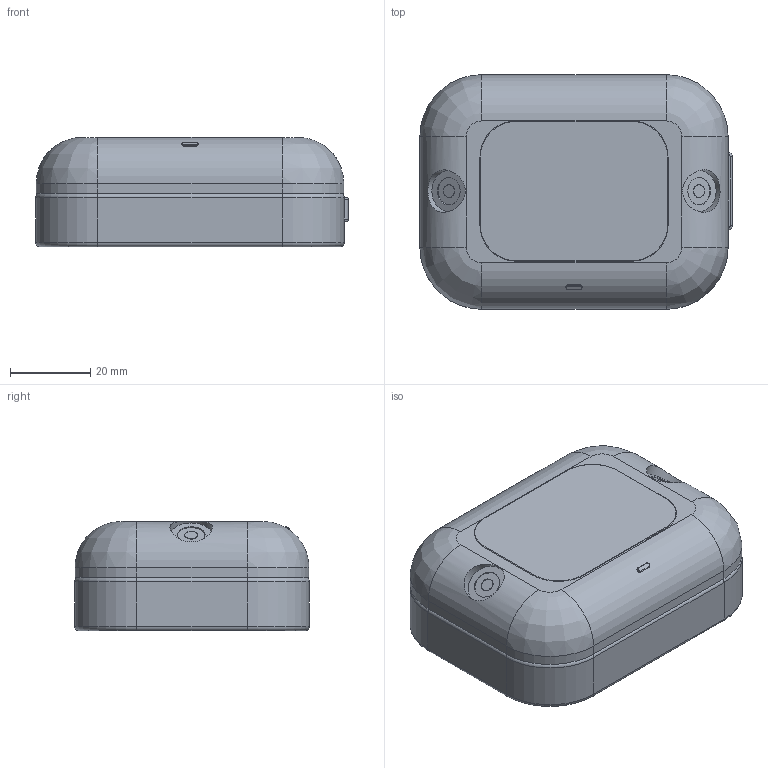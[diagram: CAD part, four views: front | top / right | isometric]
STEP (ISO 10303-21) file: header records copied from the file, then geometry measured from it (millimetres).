
FILE_DESCRIPTION(('Open CASCADE Model'),'2;1');
FILE_NAME('vive-ultimate-tracker-exterior.step','2026-11-14T14:32:00',( 'Author'),('Open CASCADE'),'Open CASCADE STEP processor 8.0', 'Open CASCADE 8.0','Unknown');
FILE_SCHEMA(('AP242_MANAGED_MODEL_BASED_3D_ENGINEERING_MIM_LF {1 0 10303 442 1 1 4 }' ));
Length unit declared in the file: millimetre
Products named in the file (1): VIVE Ultimate Tracker Exterior
Bounding box: 78 x 58.6 x 27.3 mm (x, y, z)
Volume: 105129.7 mm3; surface area: 28127 mm2
Topology: 12 solids, 12 shells, 159 faces, 324 edges, 192 vertices
Faces by surface type: cylinder 72, plane 51, torus 32, revolution 4
Full cylindrical faces by diameter (mm): 3.2 x2, 6.2 x1, 6.74 x2, 6.9 x2, 10.3 x2, 10.6 x2, 12.2 x1
Entity records: 9147 total; most frequent: CARTESIAN_POINT 2377, DIRECTION 1300, ORIENTED_EDGE 648, PCURVE 648, DEFINITIONAL_REPRESENTATION 648, LINE 598, VECTOR 598, AXIS2_PLACEMENT_3D 334
